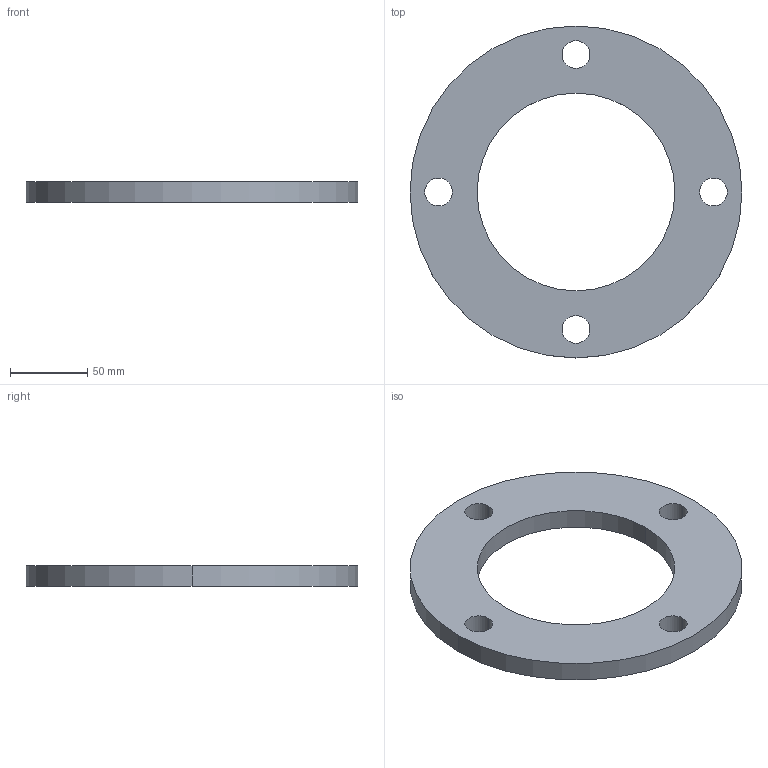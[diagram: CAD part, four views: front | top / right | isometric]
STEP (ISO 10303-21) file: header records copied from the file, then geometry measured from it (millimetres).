
FILE_DESCRIPTION (( 'STEP AP214' ), '1' );
FILE_NAME ('BRD110GPN16.STEP', '2021-05-14T11:11:05', ( 'D002203' ), ( 'Fusion Group Ltd.' ), 'SwSTEP 2.0', 'SolidWorks 2019', '' );
FILE_SCHEMA (( 'AUTOMOTIVE_DESIGN' ));
Length unit declared in the file: millimetre
Products named in the file (1): BRD110GPN16
Bounding box: 215 x 215 x 13 mm (x, y, z)
Volume: 291449.5 mm3; surface area: 61787.3 mm2
Topology: 1 solids, 1 shells, 14 faces, 36 edges, 24 vertices
Faces by surface type: cylinder 12, plane 2
Entity records: 498 total; most frequent: DIRECTION 90, CARTESIAN_POINT 75, ORIENTED_EDGE 72, AXIS2_PLACEMENT_3D 39, EDGE_CURVE 36, CIRCLE 24, VERTEX_POINT 24, EDGE_LOOP 24
